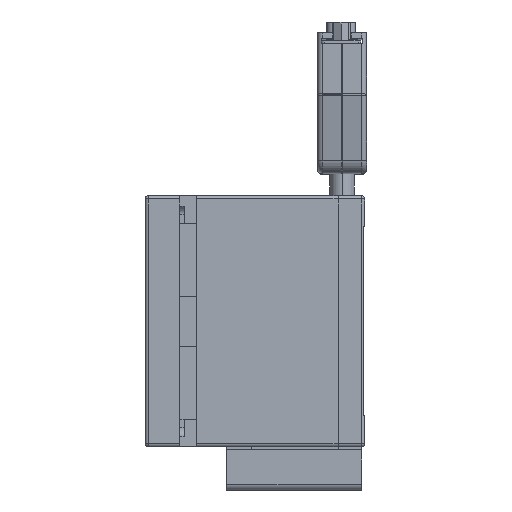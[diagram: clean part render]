
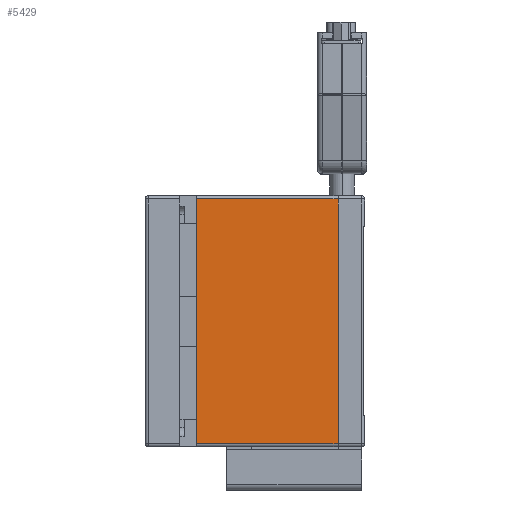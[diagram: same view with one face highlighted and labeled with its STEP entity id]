
A CAD part, left-side view. The second image highlights one B-rep face of the part: STEP entity #5429.
In plain terms, the highlighted planar face has unit normal (-1, 0, 0).
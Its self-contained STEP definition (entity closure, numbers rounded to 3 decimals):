
#2449 = EDGE_LOOP ( 'NONE', ( #23792, #22894, #19143, #31954 ) ) ;
#2783 = CARTESIAN_POINT ( 'NONE',  ( -31., 0., -0.004 ) ) ;
#5429 = ADVANCED_FACE ( 'NONE', ( #25702 ), #18535, .T. ) ;
#6194 = EDGE_CURVE ( 'NONE', #34777, #11981, #56566, .T. ) ;
#7566 = CARTESIAN_POINT ( 'NONE',  ( -31., 0., 39. ) ) ;
#11981 = VERTEX_POINT ( 'NONE', #46125 ) ;
#18155 = LINE ( 'NONE', #63500, #26854 ) ;
#18185 = VECTOR ( 'NONE', #24470, 1000. ) ;
#18508 = CARTESIAN_POINT ( 'NONE',  ( -31., 45., 0.004 ) ) ;
#18513 = VECTOR ( 'NONE', #33543, 1000. ) ;
#18535 = PLANE ( 'NONE',  #28599 ) ;
#19143 = ORIENTED_EDGE ( 'NONE', *, *, #64157, .F. ) ;
#21914 = DIRECTION ( 'NONE',  ( 0., -1., 0. ) ) ;
#22894 = ORIENTED_EDGE ( 'NONE', *, *, #30836, .T. ) ;
#23792 = ORIENTED_EDGE ( 'NONE', *, *, #6194, .F. ) ;
#24470 = DIRECTION ( 'NONE',  ( 0., 0., 1. ) ) ;
#25225 = LINE ( 'NONE', #37014, #53749 ) ;
#25702 = FACE_OUTER_BOUND ( 'NONE', #2449, .T. ) ;
#26854 = VECTOR ( 'NONE', #53727, 1000. ) ;
#28599 = AXIS2_PLACEMENT_3D ( 'NONE', #44015, #59707, #49533 ) ;
#30836 = EDGE_CURVE ( 'NONE', #34777, #58727, #18155, .T. ) ;
#31954 = ORIENTED_EDGE ( 'NONE', *, *, #41440, .T. ) ;
#33543 = DIRECTION ( 'NONE',  ( 0., 0., -1. ) ) ;
#33907 = VERTEX_POINT ( 'NONE', #63297 ) ;
#34777 = VERTEX_POINT ( 'NONE', #7566 ) ;
#37014 = CARTESIAN_POINT ( 'NONE',  ( -31., 22.5, -39. ) ) ;
#41440 = EDGE_CURVE ( 'NONE', #33907, #11981, #25225, .T. ) ;
#41968 = LINE ( 'NONE', #18508, #18185 ) ;
#44015 = CARTESIAN_POINT ( 'NONE',  ( -31., 0., 39. ) ) ;
#46125 = CARTESIAN_POINT ( 'NONE',  ( -31., 0., -39. ) ) ;
#49533 = DIRECTION ( 'NONE',  ( 0., 1., 0. ) ) ;
#53727 = DIRECTION ( 'NONE',  ( 0., 1., 0. ) ) ;
#53749 = VECTOR ( 'NONE', #21914, 1000. ) ;
#56566 = LINE ( 'NONE', #2783, #18513 ) ;
#58727 = VERTEX_POINT ( 'NONE', #60277 ) ;
#59707 = DIRECTION ( 'NONE',  ( -1., 0., 0. ) ) ;
#60277 = CARTESIAN_POINT ( 'NONE',  ( -31., 45., 39. ) ) ;
#63297 = CARTESIAN_POINT ( 'NONE',  ( -31., 45., -39. ) ) ;
#63500 = CARTESIAN_POINT ( 'NONE',  ( -31., 22.5, 39. ) ) ;
#64157 = EDGE_CURVE ( 'NONE', #33907, #58727, #41968, .T. ) ;
